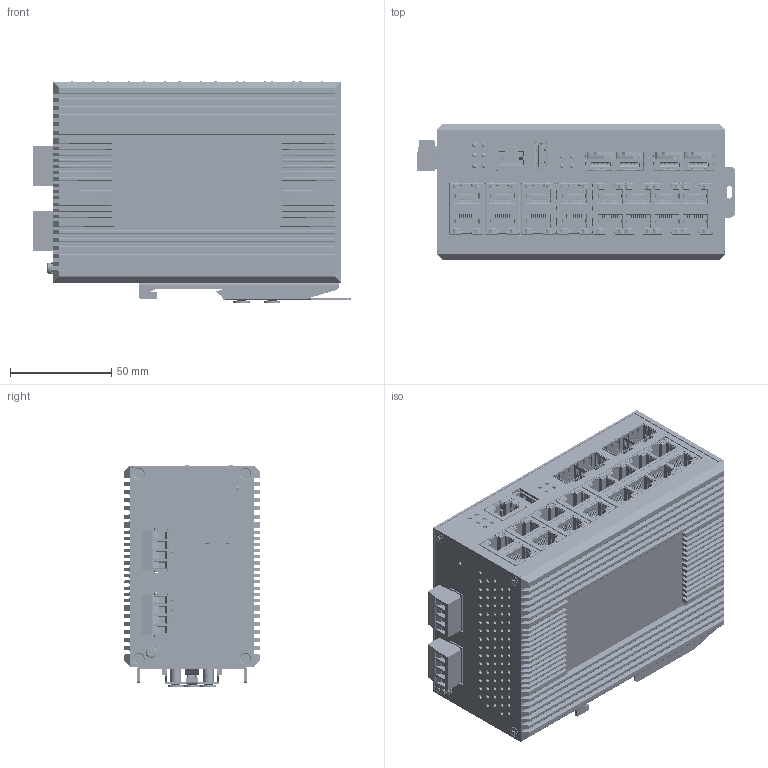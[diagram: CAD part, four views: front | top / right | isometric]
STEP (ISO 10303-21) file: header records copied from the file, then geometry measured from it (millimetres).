
FILE_DESCRIPTION((''),'2;1');
FILE_NAME('EG5-2004-SFP_ASM','2020-01-09T',('ASUS'),(''),'PRO/ENGINEER BY PARAMETRIC TECHNOLOGY CORPORATION, 2009440','PRO/ENGINEER BY PARAMETRIC TECHNOLOGY CORPORATION, 2009440','');
FILE_SCHEMA(('CONFIG_CONTROL_DESIGN'));
Products named in the file (208): PRT0001; PRT0002; PRT0003; PRT0004; PRT0005; ASM0004_ASM; PRT0006; PRT0007; PRT0008; PRT0009; ASM0005_ASM; PRT0010; PRT0011; PRT0012; PRT0013; PRT0014; PRT0015; PRT0016; PRT0017; PRT0018; ASM0003_ASM; PRT0019; PRT0020; PRT0021; PRT0022; PRT0023; PRT0024; ASM0007_ASM; PRT0025; PRT0026; PRT0027; PRT0028; PRT0029; PRT0030; PRT0031; PRT0032; PRT0033; PRT0034; PRT0035; PRT0036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
Assembly tree (316 placements, depth 5):
  EG5-2004-SFP_ASM
    ASM0002_ASM
      ASM0003_ASM  x4
        PRT0001
        PRT0002
        PRT0003
        ASM0004_ASM
          PRT0004
          PRT0005
        PRT0006
        PRT0007
        ASM0005_ASM
          PRT0008
          PRT0009
        PRT0010
        PRT0011
        PRT0012
        PRT0013
        PRT0014
        PRT0015
        PRT0016
        PRT0017
        PRT0018
      ASM0006_ASM
        PRT0019
        ASM0007_ASM
          PRT0020
          PRT0021
          PRT0022
          PRT0023
          PRT0024
        PRT0025  x16
        PRT0026  x4
        PRT0027  x4
        PRT0028
        PRT0029
        PRT0030
        PRT0031
        PRT0032
        PRT0033
        PRT0034
        PRT0035
        PRT0036
        PRT0037
        PRT0038
        PRT0039
        PRT0040
        PRT0041
        PRT0042
        PRT0043
        PRT0044
        PRT0045
        PRT0046
        PRT0047
        PRT0048
        PRT0049
        PRT0050
        PRT0051
        PRT0052
        PRT0053
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Bounding box: 156.71 x 67 x 108.98 mm (x, y, z)
Volume: 233172.8 mm3; surface area: 338285.2 mm2
Topology: 460 solids, 492 shells, 40030 faces, 113268 edges, 73679 vertices
Faces by surface type: plane 29568, cylinder 8575, torus 517, bspline 469, cone 295, sphere 282, extrusion 260, revolution 64
Entity records: 612555 total; most frequent: CARTESIAN_POINT 132708, ORIENTED_EDGE 101986, DIRECTION 95398, EDGE_CURVE 51099, VECTOR 39660, LINE 39573, VERTEX_POINT 33228, AXIS2_PLACEMENT_3D 27861
